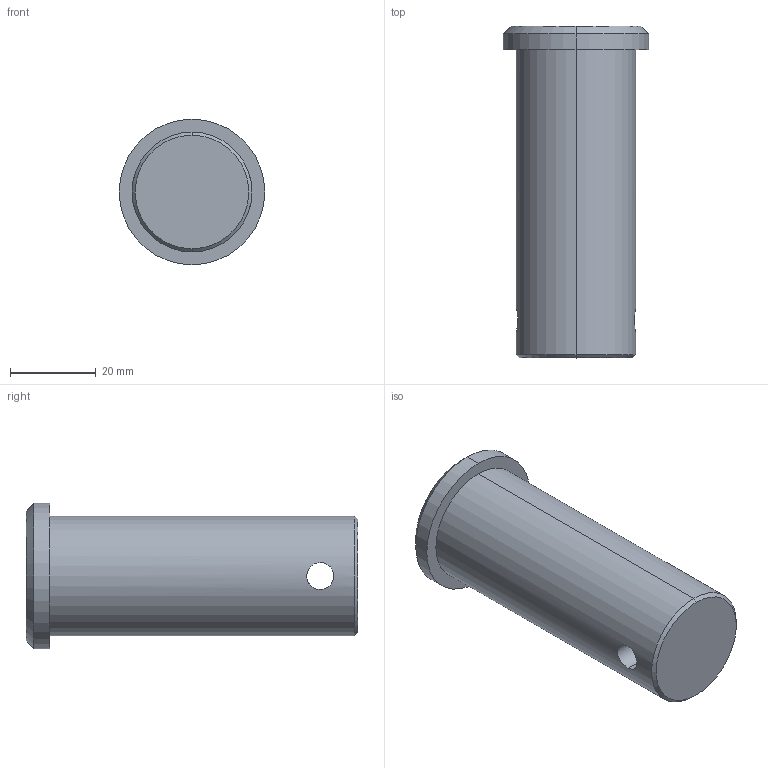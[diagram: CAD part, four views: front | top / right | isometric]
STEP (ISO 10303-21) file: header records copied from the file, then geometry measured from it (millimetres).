
FILE_DESCRIPTION (( 'STEP AP203' ), '1' );
FILE_NAME ('65660.W0128.step', '2023-10-06T10:00:09', ( '' ), ( '' ), 'SwSTEP 2.0', 'SolidWorks 2019', '' );
FILE_SCHEMA (( 'CONFIG_CONTROL_DESIGN' ));
Length unit declared in the file: millimetre
Products named in the file (1): 65660.W0128
Bounding box: 34 x 77.5 x 34 mm (x, y, z)
Volume: 48263.1 mm3; surface area: 9062.7 mm2
Topology: 1 solids, 1 shells, 13 faces, 26 edges, 16 vertices
Faces by surface type: cylinder 6, cone 4, plane 3
Entity records: 537 total; most frequent: CARTESIAN_POINT 180, DIRECTION 62, ORIENTED_EDGE 52, AXIS2_PLACEMENT_3D 26, EDGE_CURVE 26, EDGE_LOOP 16, VERTEX_POINT 16, ADVANCED_FACE 13
